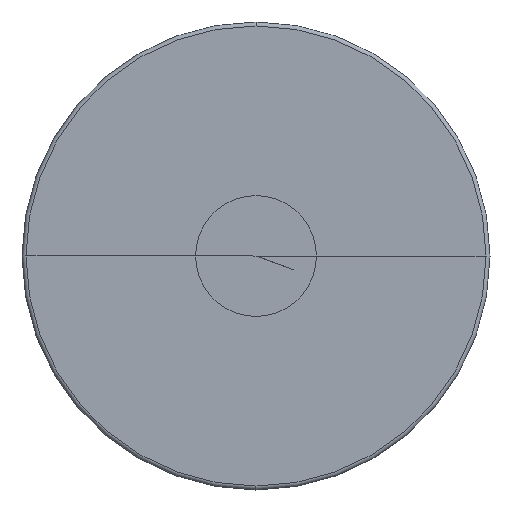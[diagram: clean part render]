
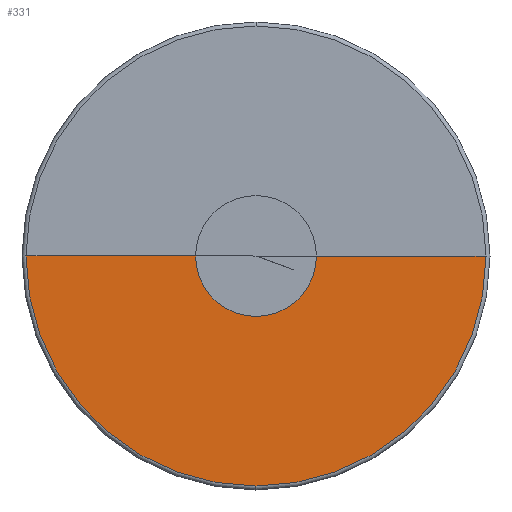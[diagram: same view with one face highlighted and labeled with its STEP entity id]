
A CAD part, front view. The second image highlights one B-rep face of the part: STEP entity #331.
In plain terms, the highlighted conical face has half-angle 89.999 degrees and reference radius 37.242 mm.
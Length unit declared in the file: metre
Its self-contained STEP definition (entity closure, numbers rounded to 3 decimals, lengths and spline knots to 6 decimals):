
#331=ADVANCED_FACE('85:579',(#573),#574,.F.);
#573=FACE_OUTER_BOUND('',#4728,.T.);
#574=CONICAL_SURFACE('',#4729,0.037242,1.571);
#4728=EDGE_LOOP('',(#5466,#5467,#5468,#5469,#5470));
#4729=AXIS2_PLACEMENT_3D('',#5471,#5472,#5473);
#5466=ORIENTED_EDGE('',*,*,#5825,.F.);
#5467=ORIENTED_EDGE('',*,*,#5826,.F.);
#5468=ORIENTED_EDGE('',*,*,#5822,.F.);
#5469=ORIENTED_EDGE('',*,*,#5827,.F.);
#5470=ORIENTED_EDGE('',*,*,#5828,.T.);
#5471=CARTESIAN_POINT('',(0.0,0.004,0.0));
#5472=DIRECTION('',(-0.0,-1.0,0.0));
#5473=DIRECTION('',(-1.0,0.0,0.0));
#5822=EDGE_CURVE('85:1707',#6231,#6233,#6234,.T.);
#5825=EDGE_CURVE('',#6237,#6238,#6239,.T.);
#5826=EDGE_CURVE('85:1707',#6233,#6237,#6240,.T.);
#5827=EDGE_CURVE('',#6241,#6231,#6242,.T.);
#5828=EDGE_CURVE('85:1704',#6241,#6238,#6243,.T.);
#6231=VERTEX_POINT('',#8081);
#6233=VERTEX_POINT('',#8083);
#6234=CIRCLE('',#8084,0.058984);
#6237=VERTEX_POINT('',#8087);
#6238=VERTEX_POINT('',#8088);
#6239=LINE('',#8089,#8090);
#6240=CIRCLE('',#8091,0.058984);
#6241=VERTEX_POINT('',#8092);
#6242=LINE('',#8093,#8094);
#6243=CIRCLE('',#8095,0.015499);
#8081=CARTESIAN_POINT('',(0.058984,0.004,0.));
#8083=CARTESIAN_POINT('',(0.,0.004,-0.058984));
#8084=AXIS2_PLACEMENT_3D('',#8622,#8623,#8624);
#8087=CARTESIAN_POINT('',(-0.058984,0.004,0.));
#8088=CARTESIAN_POINT('',(-0.015499,0.004001,0.));
#8089=CARTESIAN_POINT('',(-0.037242,0.004,0.));
#8090=VECTOR('',#8631,1.0);
#8091=AXIS2_PLACEMENT_3D('',#8632,#8633,#8634);
#8092=CARTESIAN_POINT('',(0.015499,0.004001,0.));
#8093=CARTESIAN_POINT('',(0.037242,0.004,0.));
#8094=VECTOR('',#8635,1.0);
#8095=AXIS2_PLACEMENT_3D('',#8636,#8637,#8638);
#8622=CARTESIAN_POINT('',(0.0,0.004,0.0));
#8623=DIRECTION('',(-0.0,1.0,0.0));
#8624=DIRECTION('',(1.0,0.0,0.0));
#8631=DIRECTION('',(1.,0.,0.));
#8632=CARTESIAN_POINT('',(0.0,0.004,0.0));
#8633=DIRECTION('',(-0.0,1.0,0.0));
#8634=DIRECTION('',(1.0,0.0,0.0));
#8635=DIRECTION('',(1.,0.,0.));
#8636=CARTESIAN_POINT('',(0.0,0.004001,0.0));
#8637=DIRECTION('',(-0.0,1.0,0.0));
#8638=DIRECTION('',(1.0,0.0,0.0));
